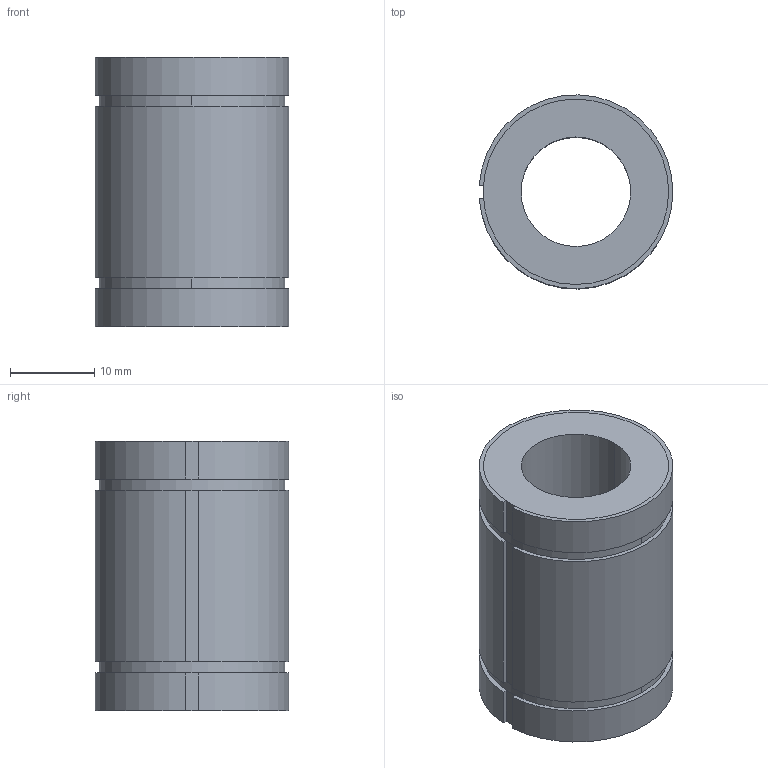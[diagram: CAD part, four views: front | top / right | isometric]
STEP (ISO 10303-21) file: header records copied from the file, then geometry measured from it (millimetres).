
FILE_DESCRIPTION((''),'2;1');
FILE_NAME('C:\Documents and Settings\ｿﾀﾀ蠑ｷ1\ｹﾙﾅﾁ ﾈｭｸ饅\ｺﾎﾇｰﾆﾄﾀﾏ\ﾁｦﾇｰ\LM__UUAJ\LM13UUAJ.stp','2005-06-14T16:24:11',('ｿﾀﾀ蠑ｷ1'),(''),'Autodesk Inventor 9','Autodesk Inventor 9','');
FILE_SCHEMA(('AUTOMOTIVE_DESIGN { 1 0 10303 214 1 1 1 1 }'));
Length unit declared in the file: millimetre
Products named in the file (1): LM__AJ
Bounding box: 22.98 x 22.99 x 32 mm (x, y, z)
Volume: 8934.2 mm3; surface area: 4341.3 mm2
Topology: 1 solids, 1 shells, 29 faces, 76 edges, 49 vertices
Faces by surface type: plane 17, cylinder 12
Entity records: 928 total; most frequent: DIRECTION 167, CARTESIAN_POINT 155, ORIENTED_EDGE 152, EDGE_CURVE 76, AXIS2_PLACEMENT_3D 61, VERTEX_POINT 49, VECTOR 45, LINE 45
